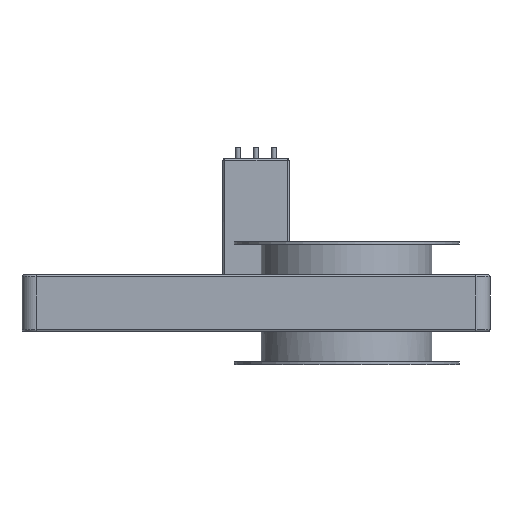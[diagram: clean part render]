
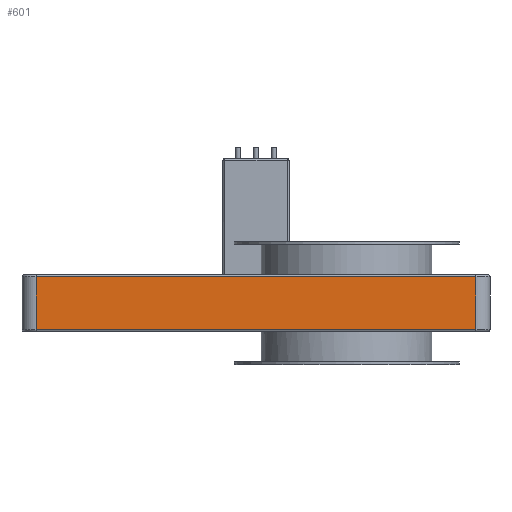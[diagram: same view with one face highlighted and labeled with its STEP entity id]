
A CAD part, front view. The second image highlights one B-rep face of the part: STEP entity #601.
In plain terms, the highlighted free-form (B-spline) face has degree [1, 1] with [2, 2] control points.
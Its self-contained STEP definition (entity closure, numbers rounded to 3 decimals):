
#546=CARTESIAN_POINT('',(-328.758,-120.5,-28.));
#547=VERTEX_POINT('',#546);
#556=CARTESIAN_POINT('',(-328.758,-120.5,28.));
#557=VERTEX_POINT('',#556);
#558=CARTESIAN_POINT('',(-328.758,-120.5,-28.));
#559=CARTESIAN_POINT('',(-328.758,-120.5,28.));
#560=B_SPLINE_CURVE_WITH_KNOTS('',1,(#558,#559),.POLYLINE_FORM.,.F.,.U.,(2,2),(0.033,0.967),.UNSPECIFIED.);
#561=EDGE_CURVE('',#547,#557,#560,.T.);
#574=CARTESIAN_POINT('',(-328.758,-120.5,-30.));
#575=CARTESIAN_POINT('',(-328.758,-120.5,30.));
#576=CARTESIAN_POINT('',(136.713,-120.5,-30.));
#577=CARTESIAN_POINT('',(136.713,-120.5,30.));
#578=B_SPLINE_SURFACE_WITH_KNOTS('',1,1,((#574,#575),(#576,#577)),.PLANE_SURF.,.F.,.F.,.U.,(2,2),(2,2),(0.,1.),(0.,1.),.UNSPECIFIED.);
#579=ORIENTED_EDGE('',*,*,#561,.F.);
#580=CARTESIAN_POINT('',(136.713,-120.5,-28.));
#581=VERTEX_POINT('',#580);
#582=CARTESIAN_POINT('',(-328.758,-120.5,-28.));
#583=CARTESIAN_POINT('',(136.713,-120.5,-28.));
#584=B_SPLINE_CURVE_WITH_KNOTS('',1,(#582,#583),.POLYLINE_FORM.,.F.,.U.,(2,2),(0.,1.),.UNSPECIFIED.);
#585=EDGE_CURVE('',#547,#581,#584,.T.);
#586=ORIENTED_EDGE('',*,*,#585,.T.);
#587=CARTESIAN_POINT('',(136.713,-120.5,28.));
#588=VERTEX_POINT('',#587);
#589=CARTESIAN_POINT('',(136.713,-120.5,-28.));
#590=CARTESIAN_POINT('',(136.713,-120.5,28.));
#591=B_SPLINE_CURVE_WITH_KNOTS('',1,(#589,#590),.POLYLINE_FORM.,.F.,.U.,(2,2),(0.033,0.967),.UNSPECIFIED.);
#592=EDGE_CURVE('',#581,#588,#591,.T.);
#593=ORIENTED_EDGE('',*,*,#592,.T.);
#594=CARTESIAN_POINT('',(-328.758,-120.5,28.));
#595=CARTESIAN_POINT('',(136.713,-120.5,28.));
#596=B_SPLINE_CURVE_WITH_KNOTS('',1,(#594,#595),.POLYLINE_FORM.,.F.,.U.,(2,2),(0.,1.),.UNSPECIFIED.);
#597=EDGE_CURVE('',#557,#588,#596,.T.);
#598=ORIENTED_EDGE('',*,*,#597,.F.);
#599=EDGE_LOOP('',(#579,#586,#593,#598));
#600=FACE_OUTER_BOUND('',#599,.T.);
#601=ADVANCED_FACE('',(#600),#578,.T.);
